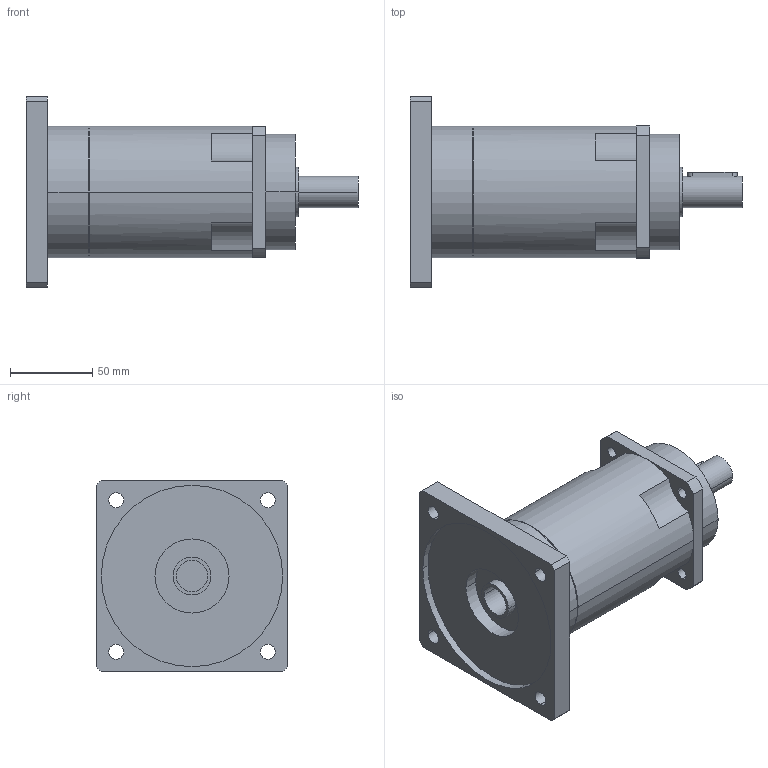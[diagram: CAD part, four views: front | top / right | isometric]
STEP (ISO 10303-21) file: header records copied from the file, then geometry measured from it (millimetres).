
FILE_DESCRIPTION(('CoCreate Modeling STEP Export'),'2;1');
FILE_NAME('GPR100_ig-48-64-80-100-120-144-180-216_19_B5_19_P08.stp','2014-08-26T11:56:48',(''),(''),'CoCreate Modeling STEP processor for AP214 (Solid Model)','CoCreate Modeling 16.00C 25-Feb-2009 (C) Parametric Technology GmbH','');
FILE_SCHEMA(('AUTOMOTIVE_DESIGN { 1 0 10303 214 1 1 1 1 }'));
Length unit declared in the file: millimetre
Products named in the file (2): GPR100_ig-48-64-80-100-120-144-180-216_19_B5_19_P08
Assembly tree (1 placements, depth 2):
  GPR100_ig-48-64-80-100-120-144-180-216_19_B5_19_P08
    GPR100_ig-48-64-80-100-120-144-180-216_19_B5_19_P08
Bounding box: 201.4 x 116 x 116 mm (x, y, z)
Volume: 854853.7 mm3; surface area: 83500 mm2
Topology: 1 solids, 1 shells, 86 faces, 242 edges, 166 vertices
Faces by surface type: cylinder 50, plane 30, cone 6
Entity records: 2552 total; most frequent: ORIENTED_EDGE 480, CARTESIAN_POINT 465, DIRECTION 376, EDGE_CURVE 240, VERTEX_POINT 166, AXIS2_PLACEMENT_3D 141, EDGE_LOOP 112, VECTOR 94
